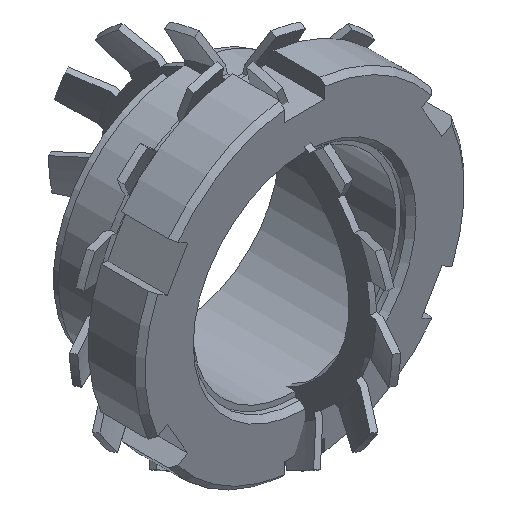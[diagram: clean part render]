
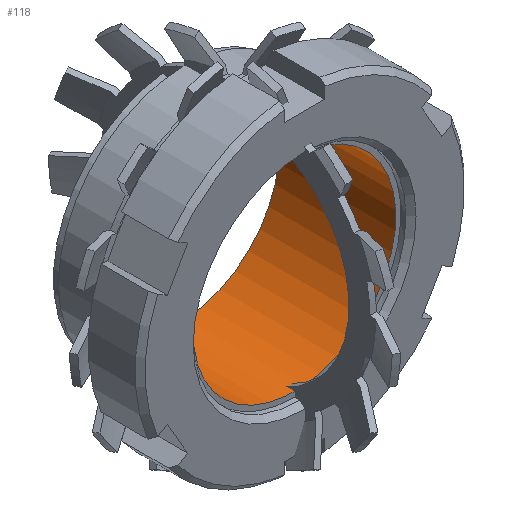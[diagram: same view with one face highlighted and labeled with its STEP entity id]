
A CAD part, isometric view. The second image highlights one B-rep face of the part: STEP entity #118.
In plain terms, the highlighted cylindrical face has radius 20 mm (diameter 40 mm), a partial arc.
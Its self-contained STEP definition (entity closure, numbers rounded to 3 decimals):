
#118 = ADVANCED_FACE( '', ( #252 ), #253, .F. );
#252 = FACE_OUTER_BOUND( '', #412, .T. );
#253 = CYLINDRICAL_SURFACE( '', #413, 20. );
#412 = EDGE_LOOP( '', ( #763, #764, #765, #766 ) );
#413 = AXIS2_PLACEMENT_3D( '', #767, #768, #769 );
#763 = ORIENTED_EDGE( '', *, *, #1294, .F. );
#764 = ORIENTED_EDGE( '', *, *, #1295, .F. );
#765 = ORIENTED_EDGE( '', *, *, #1296, .T. );
#766 = ORIENTED_EDGE( '', *, *, #1297, .T. );
#767 = CARTESIAN_POINT( '', ( 0., -60., 0. ) );
#768 = DIRECTION( '', ( 0., 1., 0. ) );
#769 = DIRECTION( '', ( 0., 0., -1. ) );
#1294 = EDGE_CURVE( '', #1699, #1700, #1701, .T. );
#1295 = EDGE_CURVE( '', #1702, #1699, #1703, .T. );
#1296 = EDGE_CURVE( '', #1702, #1704, #1705, .T. );
#1297 = EDGE_CURVE( '', #1704, #1700, #1706, .T. );
#1699 = VERTEX_POINT( '', #2817 );
#1700 = VERTEX_POINT( '', #2818 );
#1701 = LINE( '', #2819, #2820 );
#1702 = VERTEX_POINT( '', #2821 );
#1703 = CIRCLE( '', #2822, 20. );
#1704 = VERTEX_POINT( '', #2823 );
#1705 = LINE( '', #2824, #2825 );
#1706 = CIRCLE( '', #2826, 20. );
#2817 = CARTESIAN_POINT( '', ( 3., 11.25, 19.774 ) );
#2818 = CARTESIAN_POINT( '', ( 3., -11.75, 19.774 ) );
#2819 = CARTESIAN_POINT( '', ( 3., -60., 19.774 ) );
#2820 = VECTOR( '', #3310, 1000. );
#2821 = CARTESIAN_POINT( '', ( -3., 11.25, 19.774 ) );
#2822 = AXIS2_PLACEMENT_3D( '', #3311, #3312, #3313 );
#2823 = CARTESIAN_POINT( '', ( -3., -11.75, 19.774 ) );
#2824 = CARTESIAN_POINT( '', ( -3., -60., 19.774 ) );
#2825 = VECTOR( '', #3314, 1000. );
#2826 = AXIS2_PLACEMENT_3D( '', #3315, #3316, #3317 );
#3310 = DIRECTION( '', ( 0., -1., 0. ) );
#3311 = CARTESIAN_POINT( '', ( 0., 11.25, 0. ) );
#3312 = DIRECTION( '', ( 0., -1., 0. ) );
#3313 = DIRECTION( '', ( 0., 0., -1. ) );
#3314 = DIRECTION( '', ( 0., -1., 0. ) );
#3315 = CARTESIAN_POINT( '', ( 0., -11.75, 0. ) );
#3316 = DIRECTION( '', ( 0., -1., 0. ) );
#3317 = DIRECTION( '', ( 0., 0., -1. ) );
